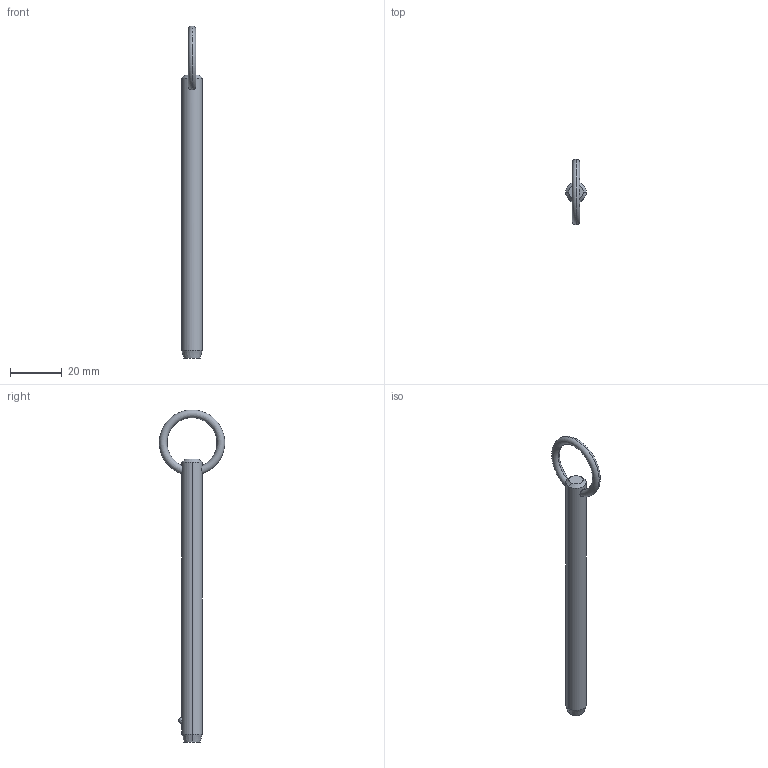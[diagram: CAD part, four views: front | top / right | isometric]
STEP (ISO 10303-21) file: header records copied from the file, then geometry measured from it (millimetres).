
FILE_DESCRIPTION (( 'STEP AP203' ), '1' );
FILE_NAME ('P1250.031-370.step', '2019-07-29T19:54:37', ( '' ), ( '' ), 'SwSTEP 2.0', 'SolidWorks 2017', '' );
FILE_SCHEMA (( 'CONFIG_CONTROL_DESIGN' ));
Length unit declared in the file: millimetre
Products named in the file (1): P1250.031-370
Bounding box: 7.93 x 25.36 x 128.91 mm (x, y, z)
Volume: 5827 mm3; surface area: 3372.5 mm2
Topology: 1 solids, 1 shells, 12 faces, 28 edges, 17 vertices
Faces by surface type: cone 4, torus 2, sphere 2, cylinder 2, plane 2
Entity records: 509 total; most frequent: CARTESIAN_POINT 176, DIRECTION 56, ORIENTED_EDGE 48, AXIS2_PLACEMENT_3D 25, EDGE_CURVE 24, EDGE_LOOP 15, VERTEX_POINT 15, ADVANCED_FACE 12
